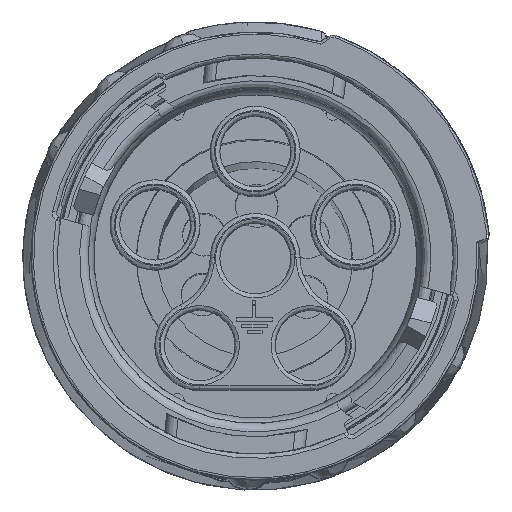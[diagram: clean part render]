
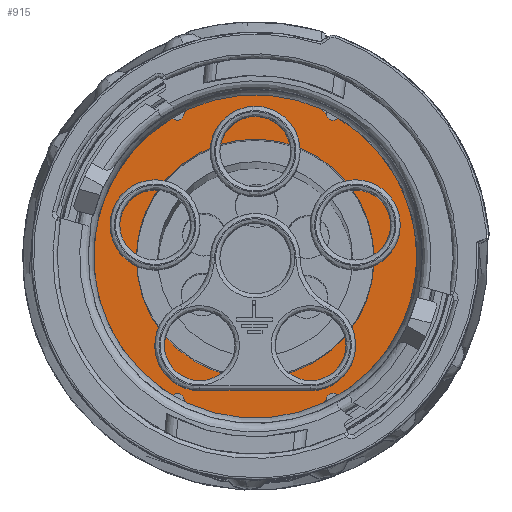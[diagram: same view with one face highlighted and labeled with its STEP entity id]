
A CAD part, top view. The second image highlights one B-rep face of the part: STEP entity #915.
In plain terms, the highlighted planar face has unit normal (0, 0, -1).
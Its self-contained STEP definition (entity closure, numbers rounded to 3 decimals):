
#915 = ADVANCED_FACE ( 'NONE', ( #14618, #36753 ), #30227, .T. ) ;
#4587 = EDGE_CURVE ( 'NONE', #21589, #21589, #16465, .T. ) ;
#8677 = DIRECTION ( 'NONE',  ( -1., 0., 0. ) ) ;
#11504 = CARTESIAN_POINT ( 'NONE',  ( 2.379, -2.769, -45.788 ) ) ;
#14618 = FACE_OUTER_BOUND ( 'NONE', #23780, .T. ) ;
#16465 = CIRCLE ( 'NONE', #37409, 7.692 ) ;
#19924 = VERTEX_POINT ( 'NONE', #31823 ) ;
#20547 = CARTESIAN_POINT ( 'NONE',  ( 2.379, -2.769, -45.788 ) ) ;
#21589 = VERTEX_POINT ( 'NONE', #37139 ) ;
#23780 = EDGE_LOOP ( 'NONE', ( #31512 ) ) ;
#24009 = DIRECTION ( 'NONE',  ( 0., 0., -1. ) ) ;
#25534 = AXIS2_PLACEMENT_3D ( 'NONE', #30835, #36139, #8677 ) ;
#26688 = DIRECTION ( 'NONE',  ( 0., 0., -1. ) ) ;
#27443 = EDGE_CURVE ( 'NONE', #19924, #19924, #39596, .T. ) ;
#30227 = PLANE ( 'NONE',  #25534 ) ;
#30835 = CARTESIAN_POINT ( 'NONE',  ( 2.379, -2.769, -45.788 ) ) ;
#31512 = ORIENTED_EDGE ( 'NONE', *, *, #4587, .T. ) ;
#31823 = CARTESIAN_POINT ( 'NONE',  ( -3.171, -2.769, -45.788 ) ) ;
#32467 = EDGE_LOOP ( 'NONE', ( #39916 ) ) ;
#35688 = AXIS2_PLACEMENT_3D ( 'NONE', #20547, #26688, #39778 ) ;
#36139 = DIRECTION ( 'NONE',  ( 0., 0., -1. ) ) ;
#36753 = FACE_BOUND ( 'NONE', #32467, .T. ) ;
#37102 = DIRECTION ( 'NONE',  ( -1., 0., 0. ) ) ;
#37139 = CARTESIAN_POINT ( 'NONE',  ( -5.313, -2.769, -45.788 ) ) ;
#37409 = AXIS2_PLACEMENT_3D ( 'NONE', #11504, #24009, #37102 ) ;
#39596 = CIRCLE ( 'NONE', #35688, 5.55 ) ;
#39778 = DIRECTION ( 'NONE',  ( -1., 0., 0. ) ) ;
#39916 = ORIENTED_EDGE ( 'NONE', *, *, #27443, .F. ) ;
